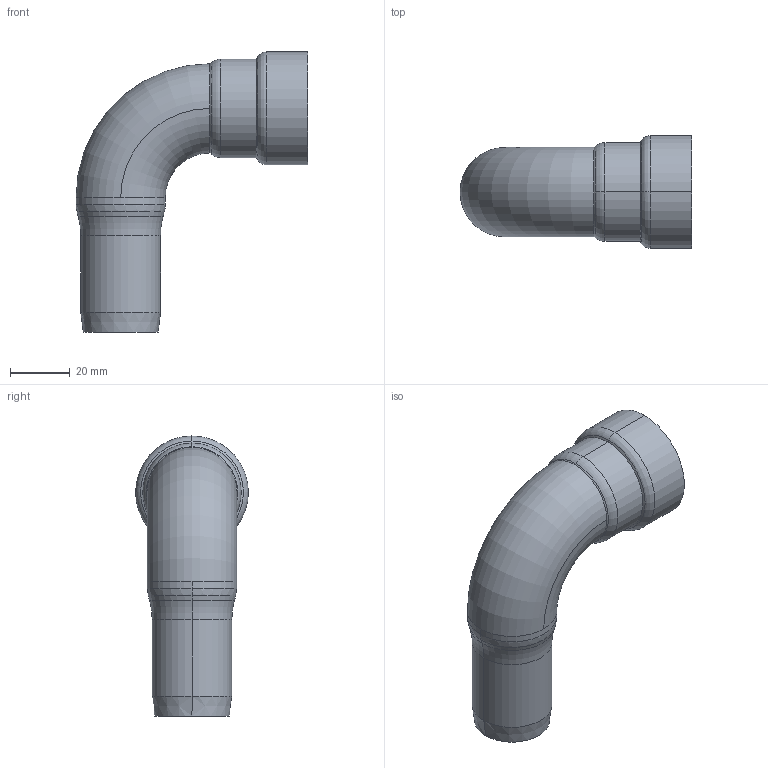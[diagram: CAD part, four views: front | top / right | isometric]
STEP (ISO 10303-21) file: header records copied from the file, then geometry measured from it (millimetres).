
FILE_DESCRIPTION(('Creo Elements/Direct Modeling STEP Export'),'2;1');
FILE_NAME('C9411_3-4.stp','2020-06-25T10:44:16',(''),(''),'PTC Creo Elements/Direct Modeling STEP processor for AP214 (Solid Model)','PTC Creo Elements/Direct Modeling 19.0C 15-Aug-2015 (C) Parametric Technology GmbH','');
FILE_SCHEMA(('AUTOMOTIVE_DESIGN { 1 0 10303 214 1 1 1 1 }'));
Length unit declared in the file: millimetre
Products named in the file (2): C9411_3-4
Assembly tree (1 placements, depth 2):
  C9411_3-4
    C9411_3-4
Bounding box: 77.95 x 37.9 x 94.12 mm (x, y, z)
Volume: 34421.2 mm3; surface area: 22440.3 mm2
Topology: 1 solids, 1 shells, 45 faces, 98 edges, 56 vertices
Faces by surface type: cylinder 16, torus 16, cone 10, plane 3
Entity records: 1129 total; most frequent: DIRECTION 200, ORIENTED_EDGE 196, CARTESIAN_POINT 169, EDGE_CURVE 98, AXIS2_PLACEMENT_3D 87, VERTEX_POINT 56, EDGE_LOOP 48, FACE_OUTER_BOUND 45
